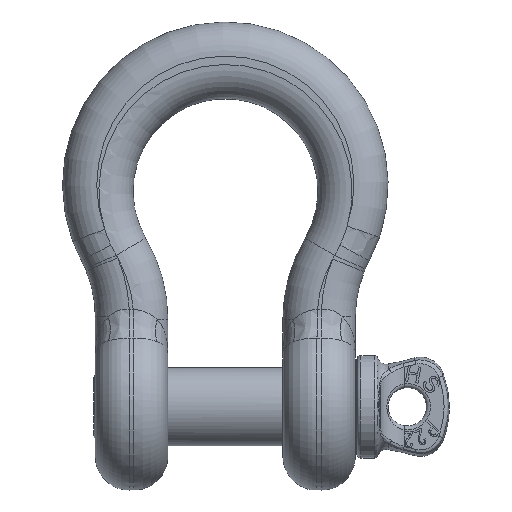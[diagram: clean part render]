
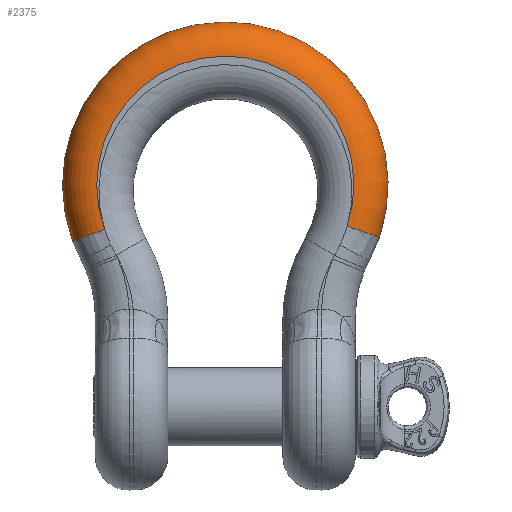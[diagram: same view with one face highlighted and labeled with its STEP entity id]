
A CAD part, top view. The second image highlights one B-rep face of the part: STEP entity #2375.
In plain terms, the highlighted toroidal (fillet/blend) face has major radius 64 mm and minor radius 17 mm.
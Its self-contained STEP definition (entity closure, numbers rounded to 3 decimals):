
#1831=FACE_OUTER_BOUND('',#3290,.T.);
#2375=ADVANCED_FACE('',(#1831),#2887,.T.);
#2887=TOROIDAL_SURFACE('',#10531,64.,17.);
#2976=CIRCLE('',#10453,64.);
#2983=CIRCLE('',#10464,81.);
#3021=CIRCLE('',#10528,17.);
#3023=CIRCLE('',#10530,17.);
#3290=EDGE_LOOP('',(#4420,#4421,#4422,#4423));
#4420=ORIENTED_EDGE('',*,*,#8361,.T.);
#4421=ORIENTED_EDGE('',*,*,#8250,.F.);
#4422=ORIENTED_EDGE('',*,*,#8363,.F.);
#4423=ORIENTED_EDGE('',*,*,#8269,.F.);
#7203=VERTEX_POINT('',#15239);
#7204=VERTEX_POINT('',#15240);
#7220=VERTEX_POINT('',#15297);
#7221=VERTEX_POINT('',#15299);
#8250=EDGE_CURVE('',#7204,#7203,#2976,.T.);
#8269=EDGE_CURVE('',#7220,#7221,#2983,.T.);
#8361=EDGE_CURVE('',#7220,#7203,#3021,.T.);
#8363=EDGE_CURVE('',#7221,#7204,#3023,.T.);
#10453=AXIS2_PLACEMENT_3D('',#15241,#11178,#11179);
#10464=AXIS2_PLACEMENT_3D('',#15298,#11206,#11207);
#10528=AXIS2_PLACEMENT_3D('',#15655,#11349,#11350);
#10530=AXIS2_PLACEMENT_3D('',#15681,#11353,#11354);
#10531=AXIS2_PLACEMENT_3D('',#15682,#11355,#11356);
#11178=DIRECTION('',(0.,0.,1.));
#11179=DIRECTION('',(-1.,0.,0.));
#11206=DIRECTION('',(0.,0.,-1.));
#11207=DIRECTION('',(-1.,0.,0.));
#11349=DIRECTION('',(-0.348,0.938,0.));
#11350=DIRECTION('',(-0.938,-0.348,0.));
#11353=DIRECTION('',(-0.322,-0.947,0.));
#11354=DIRECTION('',(0.947,-0.322,0.));
#11355=DIRECTION('',(0.,0.,-1.));
#11356=DIRECTION('',(-1.,0.,0.));
#15239=CARTESIAN_POINT('',(-60.004,-22.26,18.05));
#15240=CARTESIAN_POINT('',(60.587,-20.62,18.05));
#15241=CARTESIAN_POINT('',(0.,0.,18.05));
#15297=CARTESIAN_POINT('',(-75.943,-28.173,1.05));
#15298=CARTESIAN_POINT('',(0.,0.,1.05));
#15299=CARTESIAN_POINT('',(76.681,-26.097,1.05));
#15655=CARTESIAN_POINT('',(-60.004,-22.26,1.05));
#15681=CARTESIAN_POINT('',(60.587,-20.62,1.05));
#15682=CARTESIAN_POINT('',(0.,0.,1.05));
